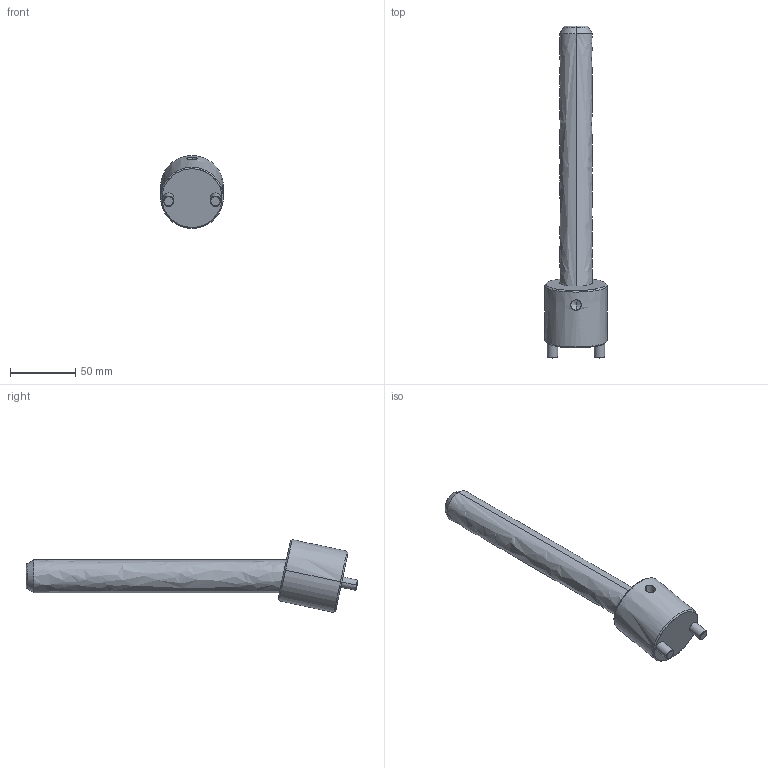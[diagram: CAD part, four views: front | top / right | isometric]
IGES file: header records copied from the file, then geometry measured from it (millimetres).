
Start section: START RECORD GO HERE.
Global section: file name: CI1225200.igs; native system: DASSAULT SYSTEMES CATIA V5 R20 - www.3ds.com; preprocessor: CATIA Version 5 Release 20 ; author: r.borello; organization: CFTORINO; date: 20190621.160908; units: millimetre
Bounding box: 48 x 254.52 x 55.89 mm (x, y, z)
Surface area: 33296.5 mm2 (no closed solid volume)
Topology: 0 solids, 0 shells, 39 faces, 162 edges, 160 vertices
Faces by surface type: revolution 32, plane 7
